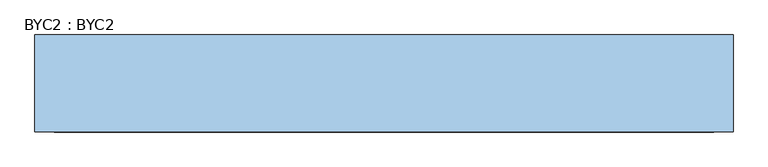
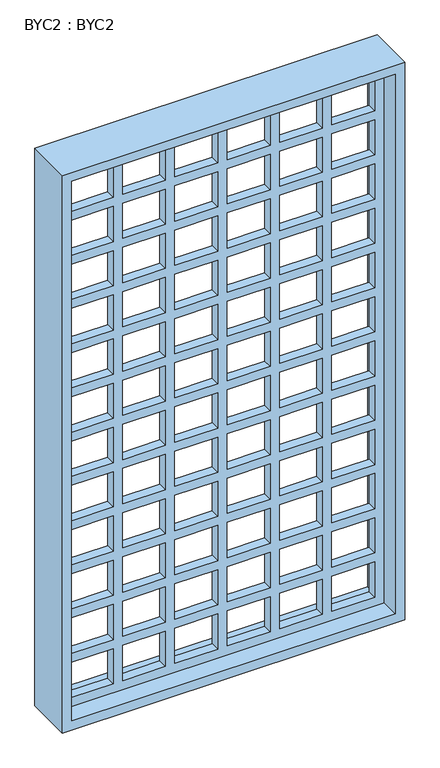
"""IFC4 building model written with IfcOpenShell, lengths in millimetres: window geometry, BYC2 : BYC2."""

from ifc_helpers import new_model, si_unit, frame, origin, place, context, project, spatial, polyline, outline, extrude, source, transform, mapped, element, save


def byc2_byc2_f14416d1(model_context):
    return source(origin(), model_context, "Body", "SweptSolid", [
        extrude(outline(polyline([(3950.0, 850.0), (3950.0, -850.0), (950.0, -850.0), (950.0, 850.0), (3950.0, 850.0)]), holes=[polyline([(3900.0, -575.0), (3704.1666667, -575.0), (3704.1666667, -800.0), (3900.0, -800.0), (3900.0, -575.0)]), polyline([(3900.0, -300.0), (3704.1666667, -300.0), (3704.1666667, -525.0), (3900.0, -525.0), (3900.0, -300.0)]), polyline([(3900.0, -25.0), (3704.1666667, -25.0), (3704.1666667, -250.0), (3900.0, -250.0), (3900.0, -25.0)]), polyline([(3900.0, 250.0), (3704.1666667, 250.0), (3704.1666667, 25.0), (3900.0, 25.0), (3900.0, 250.0)]), polyline([(3900.0, 525.0), (3704.1666667, 525.0), (3704.1666667, 300.0), (3900.0, 300.0), (3900.0, 525.0)]), polyline([(3900.0, 800.0), (3704.1666667, 800.0), (3704.1666667, 575.0), (3900.0, 575.0), (3900.0, 800.0)]), polyline([(3654.1666667, -575.0), (3458.3333333, -575.0), (3458.3333333, -800.0), (3654.1666667, -800.0), (3654.1666667, -575.0)]), polyline([(3654.1666667, -300.0), (3458.3333333, -300.0), (3458.3333333, -525.0), (3654.1666667, -525.0), (3654.1666667, -300.0)]), polyline([(3654.1666667, -25.0), (3458.3333333, -25.0), (3458.3333333, -250.0), (3654.1666667, -250.0), (3654.1666667, -25.0)]), polyline([(3654.1666667, 250.0), (3458.3333333, 250.0), (3458.3333333, 25.0), (3654.1666667, 25.0), (3654.1666667, 250.0)]), polyline([(3654.1666667, 525.0), (3458.3333333, 525.0), (3458.3333333, 300.0), (3654.1666667, 300.0), (3654.1666667, 525.0)]), polyline([(3654.1666667, 800.0), (3458.3333333, 800.0), (3458.3333333, 575.0), (3654.1666667, 575.0), (3654.1666667, 800.0)]), polyline([(3408.3333333, -575.0), (3212.5, -575.0), (3212.5, -800.0), (3408.3333333, -800.0), (3408.3333333, -575.0)]), polyline([(3408.3333333, -300.0), (3212.5, -300.0), (3212.5, -525.0), (3408.3333333, -525.0), (3408.3333333, -300.0)]), polyline([(3408.3333333, -25.0), (3212.5, -25.0), (3212.5, -250.0), (3408.3333333, -250.0), (3408.3333333, -25.0)]), polyline([(3408.3333333, 250.0), (3212.5, 250.0), (3212.5, 25.0), (3408.3333333, 25.0), (3408.3333333, 250.0)]), polyline([(3408.3333333, 525.0), (3212.5, 525.0), (3212.5, 300.0), (3408.3333333, 300.0), (3408.3333333, 525.0)]), polyline([(3408.3333333, 800.0), (3212.5, 800.0), (3212.5, 575.0), (3408.3333333, 575.0), (3408.3333333, 800.0)]), polyline([(3162.5, -575.0), (2966.6666667, -575.0), (2966.6666667, -800.0), (3162.5, -800.0), (3162.5, -575.0)]), polyline([(3162.5, -300.0), (2966.6666667, -300.0), (2966.6666667, -525.0), (3162.5, -525.0), (3162.5, -300.0)]), polyline([(3162.5, -25.0), (2966.6666667, -25.0), (2966.6666667, -250.0), (3162.5, -250.0), (3162.5, -25.0)]), polyline([(3162.5, 250.0), (2966.6666667, 250.0), (2966.6666667, 25.0), (3162.5, 25.0), (3162.5, 250.0)]), polyline([(3162.5, 525.0), (2966.6666667, 525.0), (2966.6666667, 300.0), (3162.5, 300.0), (3162.5, 525.0)]), polyline([(3162.5, 800.0), (2966.6666667, 800.0), (2966.6666667, 575.0), (3162.5, 575.0), (3162.5, 800.0)]), polyline([(2916.6666667, -575.0), (2720.8333333, -575.0), (2720.8333333, -800.0), (2916.6666667, -800.0), (2916.6666667, -575.0)]), polyline([(2916.6666667, -300.0), (2720.8333333, -300.0), (2720.8333333, -525.0), (2916.6666667, -525.0), (2916.6666667, -300.0)]), polyline([(2916.6666667, -25.0), (2720.8333333, -25.0), (2720.8333333, -250.0), (2916.6666667, -250.0), (2916.6666667, -25.0)]), polyline([(2916.6666667, 250.0), (2720.8333333, 250.0), (2720.8333333, 25.0), (2916.6666667, 25.0), (2916.6666667, 250.0)]), polyline([(2916.6666667, 525.0), (2720.8333333, 525.0), (2720.8333333, 300.0), (2916.6666667, 300.0), (2916.6666667, 525.0)]), polyline([(2916.6666667, 800.0), (2720.8333333, 800.0), (2720.8333333, 575.0), (2916.6666667, 575.0), (2916.6666667, 800.0)]), polyline([(2670.8333333, -575.0), (2475.0, -575.0), (2475.0, -800.0), (2670.8333333, -800.0), (2670.8333333, -575.0)]), polyline([(2670.8333333, -300.0), (2475.0, -300.0), (2475.0, -525.0), (2670.8333333, -525.0), (2670.8333333, -300.0)]), polyline([(2670.8333333, -25.0), (2475.0, -25.0), (2475.0, -250.0), (2670.8333333, -250.0), (2670.8333333, -25.0)]), polyline([(2670.8333333, 250.0), (2475.0, 250.0), (2475.0, 25.0), (2670.8333333, 25.0), (2670.8333333, 250.0)]), polyline([(2670.8333333, 525.0), (2475.0, 525.0), (2475.0, 300.0), (2670.8333333, 300.0), (2670.8333333, 525.0)]), polyline([(2670.8333333, 800.0), (2475.0, 800.0), (2475.0, 575.0), (2670.8333333, 575.0), (2670.8333333, 800.0)]), polyline([(2425.0, -575.0), (2229.1666667, -575.0), (2229.1666667, -800.0), (2425.0, -800.0), (2425.0, -575.0)]), polyline([(2425.0, -300.0), (2229.1666667, -300.0), (2229.1666667, -525.0), (2425.0, -525.0), (2425.0, -300.0)]), polyline([(2425.0, -25.0), (2229.1666667, -25.0), (2229.1666667, -250.0), (2425.0, -250.0), (2425.0, -25.0)]), polyline([(2425.0, 250.0), (2229.1666667, 250.0), (2229.1666667, 25.0), (2425.0, 25.0), (2425.0, 250.0)]), polyline([(2425.0, 525.0), (2229.1666667, 525.0), (2229.1666667, 300.0), (2425.0, 300.0), (2425.0, 525.0)]), polyline([(2425.0, 800.0), (2229.1666667, 800.0), (2229.1666667, 575.0), (2425.0, 575.0), (2425.0, 800.0)]), polyline([(2179.1666667, -575.0), (1983.3333333, -575.0), (1983.3333333, -800.0), (2179.1666667, -800.0), (2179.1666667, -575.0)]), polyline([(2179.1666667, -300.0), (1983.3333333, -300.0), (1983.3333333, -525.0), (2179.1666667, -525.0), (2179.1666667, -300.0)]), polyline([(2179.1666667, -25.0), (1983.3333333, -25.0), (1983.3333333, -250.0), (2179.1666667, -250.0), (2179.1666667, -25.0)]), polyline([(2179.1666667, 250.0), (1983.3333333, 250.0), (1983.3333333, 25.0), (2179.1666667, 25.0), (2179.1666667, 250.0)]), polyline([(2179.1666667, 525.0), (1983.3333333, 525.0), (1983.3333333, 300.0), (2179.1666667, 300.0), (2179.1666667, 525.0)]), polyline([(2179.1666667, 800.0), (1983.3333333, 800.0), (1983.3333333, 575.0), (2179.1666667, 575.0), (2179.1666667, 800.0)]), polyline([(1933.3333333, -575.0), (1737.5, -575.0), (1737.5, -800.0), (1933.3333333, -800.0), (1933.3333333, -575.0)]), polyline([(1933.3333333, -300.0), (1737.5, -300.0), (1737.5, -525.0), (1933.3333333, -525.0), (1933.3333333, -300.0)]), polyline([(1933.3333333, -25.0), (1737.5, -25.0), (1737.5, -250.0), (1933.3333333, -250.0), (1933.3333333, -25.0)]), polyline([(1933.3333333, 250.0), (1737.5, 250.0), (1737.5, 25.0), (1933.3333333, 25.0), (1933.3333333, 250.0)]), polyline([(1933.3333333, 525.0), (1737.5, 525.0), (1737.5, 300.0), (1933.3333333, 300.0), (1933.3333333, 525.0)]), polyline([(1933.3333333, 800.0), (1737.5, 800.0), (1737.5, 575.0), (1933.3333333, 575.0), (1933.3333333, 800.0)]), polyline([(1687.5, -575.0), (1491.6666667, -575.0), (1491.6666667, -800.0), (1687.5, -800.0), (1687.5, -575.0)]), polyline([(1687.5, -300.0), (1491.6666667, -300.0), (1491.6666667, -525.0), (1687.5, -525.0), (1687.5, -300.0)]), polyline([(1687.5, -25.0), (1491.6666667, -25.0), (1491.6666667, -250.0), (1687.5, -250.0), (1687.5, -25.0)]), polyline([(1687.5, 250.0), (1491.6666667, 250.0), (1491.6666667, 25.0), (1687.5, 25.0), (1687.5, 250.0)]), polyline([(1687.5, 525.0), (1491.6666667, 525.0), (1491.6666667, 300.0), (1687.5, 300.0), (1687.5, 525.0)]), polyline([(1687.5, 800.0), (1491.6666667, 800.0), (1491.6666667, 575.0), (1687.5, 575.0), (1687.5, 800.0)]), polyline([(1441.6666667, -575.0), (1245.8333333, -575.0), (1245.8333333, -800.0), (1441.6666667, -800.0), (1441.6666667, -575.0)]), polyline([(1441.6666667, -300.0), (1245.8333333, -300.0), (1245.8333333, -525.0), (1441.6666667, -525.0), (1441.6666667, -300.0)]), polyline([(1441.6666667, -25.0), (1245.8333333, -25.0), (1245.8333333, -250.0), (1441.6666667, -250.0), (1441.6666667, -25.0)]), polyline([(1441.6666667, 250.0), (1245.8333333, 250.0), (1245.8333333, 25.0), (1441.6666667, 25.0), (1441.6666667, 250.0)]), polyline([(1441.6666667, 525.0), (1245.8333333, 525.0), (1245.8333333, 300.0), (1441.6666667, 300.0), (1441.6666667, 525.0)]), polyline([(1441.6666667, 800.0), (1245.8333333, 800.0), (1245.8333333, 575.0), (1441.6666667, 575.0), (1441.6666667, 800.0)]), polyline([(1195.8333333, -575.0), (1000.0, -575.0), (1000.0, -800.0), (1195.8333333, -800.0), (1195.8333333, -575.0)]), polyline([(1195.8333333, -300.0), (1000.0, -300.0), (1000.0, -525.0), (1195.8333333, -525.0), (1195.8333333, -300.0)]), polyline([(1195.8333333, -25.0), (1000.0, -25.0), (1000.0, -250.0), (1195.8333333, -250.0), (1195.8333333, -25.0)]), polyline([(1195.8333333, 250.0), (1000.0, 250.0), (1000.0, 25.0), (1195.8333333, 25.0), (1195.8333333, 250.0)]), polyline([(1195.8333333, 525.0), (1000.0, 525.0), (1000.0, 300.0), (1195.8333333, 300.0), (1195.8333333, 525.0)]), polyline([(1195.8333333, 800.0), (1000.0, 800.0), (1000.0, 575.0), (1195.8333333, 575.0), (1195.8333333, 800.0)])]), frame((0.0, -25.0, 0.0), z_axis=(0.0, 1.0, 0.0), x_axis=(0.0, 0.0, 1.0)), (0.0, 0.0, 1.0), 50.0),
        extrude(outline(polyline([(4000.0, 900.0), (4000.0, -900.0), (900.0, -900.0), (900.0, 900.0), (4000.0, 900.0)]), holes=[polyline([(3950.0, 850.0), (950.0, 850.0), (950.0, -850.0), (3950.0, -850.0), (3950.0, 850.0)])]), frame((0.0, -125.0, 0.0), z_axis=(0.0, 1.0, 0.0), x_axis=(0.0, 0.0, 1.0)), (0.0, 0.0, 1.0), 250.0),
    ])


if __name__ == "__main__":
    model = new_model("IFC4")
    model_context = context("Model", 3, world=origin())
    ifc_project = project(units=[si_unit("LENGTHUNIT", "METRE", prefix="MILLI")], contexts=[model_context])
    site = spatial("IfcSite", under=ifc_project)
    building = spatial("IfcBuilding", under=site)
    placement = place(None, origin())
    byc2_byc2_shape = byc2_byc2_f14416d1(model_context)
    element("IfcWindow", 1, ObjectType="BYC2 : BYC2", at=placement, inside=building, context=model_context, shape_type="MappedRepresentation", body=[
        mapped(byc2_byc2_shape, transform((0.0, 0.0, 0.0), x_axis=(1.0, 0.0, 0.0), y_axis=(0.0, 1.0, 0.0), z_axis=(0.0, 0.0, 1.0))),
    ])
    save(model, "model.ifc")
